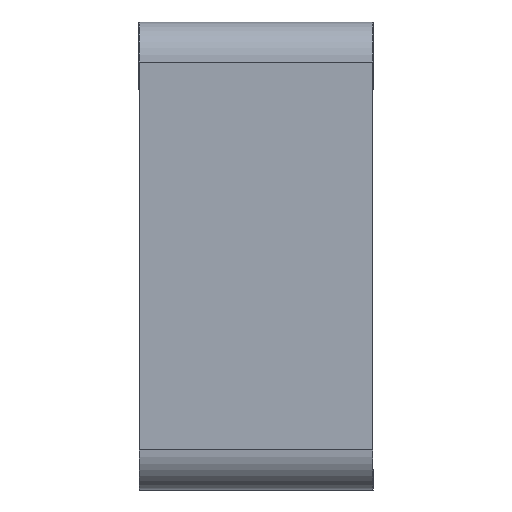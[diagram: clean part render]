
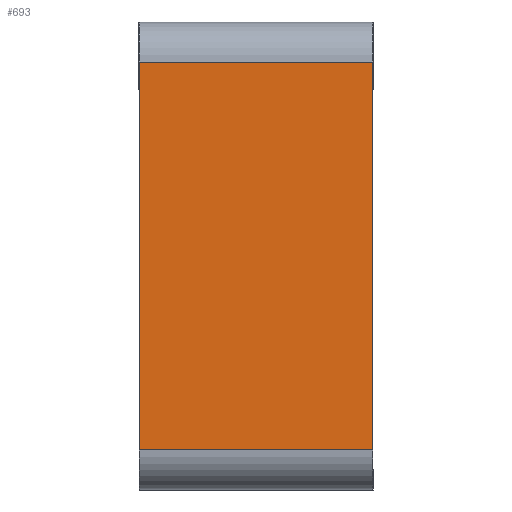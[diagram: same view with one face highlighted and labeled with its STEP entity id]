
A CAD part, left-side view. The second image highlights one B-rep face of the part: STEP entity #693.
In plain terms, the highlighted planar face has unit normal (-1, 0, 0).
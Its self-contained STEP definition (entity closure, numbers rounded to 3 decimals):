
#60=LINE('',#1183,#116);
#66=LINE('',#1201,#122);
#69=LINE('',#1208,#125);
#71=LINE('',#1211,#127);
#116=VECTOR('',#970,10.);
#122=VECTOR('',#992,10.);
#125=VECTOR('',#999,4.32);
#127=VECTOR('',#1003,10.);
#187=FACE_OUTER_BOUND('',#233,.T.);
#233=EDGE_LOOP('',(#605,#606,#607,#608));
#328=VERTEX_POINT('',#1180);
#329=VERTEX_POINT('',#1182);
#333=VERTEX_POINT('',#1199);
#335=VERTEX_POINT('',#1207);
#411=EDGE_CURVE('',#329,#328,#60,.T.);
#420=EDGE_CURVE('',#333,#328,#66,.T.);
#423=EDGE_CURVE('',#329,#335,#69,.T.);
#425=EDGE_CURVE('',#333,#335,#71,.T.);
#605=ORIENTED_EDGE('',*,*,#411,.T.);
#606=ORIENTED_EDGE('',*,*,#420,.F.);
#607=ORIENTED_EDGE('',*,*,#425,.T.);
#608=ORIENTED_EDGE('',*,*,#423,.F.);
#650=PLANE('',#797);
#693=ADVANCED_FACE('',(#187),#650,.F.);
#797=AXIS2_PLACEMENT_3D('',#1220,#1017,#1018);
#970=DIRECTION('',(0.,1.,0.));
#992=DIRECTION('',(0.,0.,1.));
#999=DIRECTION('',(0.,0.,-1.));
#1003=DIRECTION('',(0.,-1.,0.));
#1017=DIRECTION('center_axis',(1.,0.,0.));
#1018=DIRECTION('ref_axis',(0.,0.,-1.));
#1180=CARTESIAN_POINT('',(-30.,0.,64.));
#1182=CARTESIAN_POINT('',(-30.,-35.,64.));
#1183=CARTESIAN_POINT('',(-30.,-26.25,64.));
#1199=CARTESIAN_POINT('',(-30.,0.,6.));
#1201=CARTESIAN_POINT('',(-30.,0.,6.));
#1207=CARTESIAN_POINT('',(-30.,-35.,6.));
#1208=CARTESIAN_POINT('',(-30.,-35.,-7.572));
#1211=CARTESIAN_POINT('',(-30.,-17.5,6.));
#1220=CARTESIAN_POINT('Origin',(-30.,-17.5,34.607));
